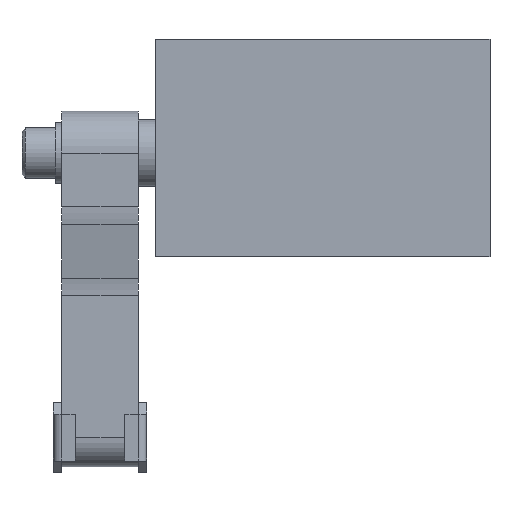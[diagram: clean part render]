
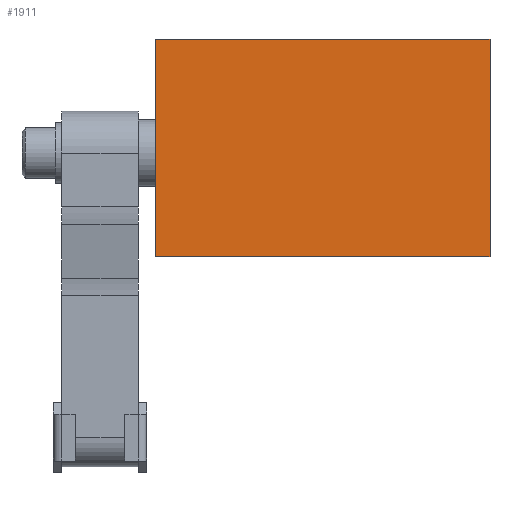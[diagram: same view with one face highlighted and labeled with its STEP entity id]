
A CAD part, left-side view. The second image highlights one B-rep face of the part: STEP entity #1911.
In plain terms, the highlighted planar face has unit normal (-1, 0, 0).
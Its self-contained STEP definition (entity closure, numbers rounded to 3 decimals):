
#67 = CARTESIAN_POINT ( 'NONE',  ( -42.5, 100., 32.5 ) ) ;
#204 = VECTOR ( 'NONE', #2873, 1000. ) ;
#276 = LINE ( 'NONE', #4903, #2636 ) ;
#407 = ORIENTED_EDGE ( 'NONE', *, *, #1941, .F. ) ;
#416 = VERTEX_POINT ( 'NONE', #1173 ) ;
#498 = LINE ( 'NONE', #3025, #3078 ) ;
#514 = ORIENTED_EDGE ( 'NONE', *, *, #929, .T. ) ;
#670 = DIRECTION ( 'NONE',  ( 0., 0., 1. ) ) ;
#829 = FACE_OUTER_BOUND ( 'NONE', #3188, .T. ) ;
#879 = DIRECTION ( 'NONE',  ( 0., 0., -1. ) ) ;
#914 = VERTEX_POINT ( 'NONE', #1917 ) ;
#929 = EDGE_CURVE ( 'NONE', #3277, #416, #3632, .T. ) ;
#1173 = CARTESIAN_POINT ( 'NONE',  ( -42.5, 0., -32.5 ) ) ;
#1668 = PLANE ( 'NONE',  #5159 ) ;
#1911 = ADVANCED_FACE ( 'NONE', ( #829 ), #1668, .F. ) ;
#1917 = CARTESIAN_POINT ( 'NONE',  ( -42.5, 0., 32.5 ) ) ;
#1941 = EDGE_CURVE ( 'NONE', #3277, #4915, #5366, .T. ) ;
#2091 = EDGE_CURVE ( 'NONE', #416, #914, #276, .T. ) ;
#2178 = DIRECTION ( 'NONE',  ( 0., -1., 0. ) ) ;
#2636 = VECTOR ( 'NONE', #670, 1000. ) ;
#2720 = EDGE_CURVE ( 'NONE', #4915, #914, #498, .T. ) ;
#2873 = DIRECTION ( 'NONE',  ( 0., 0., 1. ) ) ;
#3025 = CARTESIAN_POINT ( 'NONE',  ( -42.5, 100., 32.5 ) ) ;
#3078 = VECTOR ( 'NONE', #2178, 1000. ) ;
#3188 = EDGE_LOOP ( 'NONE', ( #4671, #4605, #407, #514 ) ) ;
#3277 = VERTEX_POINT ( 'NONE', #5326 ) ;
#3353 = CARTESIAN_POINT ( 'NONE',  ( -42.5, 100., 32.5 ) ) ;
#3632 = LINE ( 'NONE', #5343, #4818 ) ;
#4538 = DIRECTION ( 'NONE',  ( 1., 0., 0. ) ) ;
#4605 = ORIENTED_EDGE ( 'NONE', *, *, #2720, .F. ) ;
#4671 = ORIENTED_EDGE ( 'NONE', *, *, #2091, .T. ) ;
#4818 = VECTOR ( 'NONE', #5238, 1000. ) ;
#4903 = CARTESIAN_POINT ( 'NONE',  ( -42.5, 0., 32.5 ) ) ;
#4915 = VERTEX_POINT ( 'NONE', #67 ) ;
#5012 = CARTESIAN_POINT ( 'NONE',  ( -42.5, 100., 32.5 ) ) ;
#5159 = AXIS2_PLACEMENT_3D ( 'NONE', #3353, #4538, #879 ) ;
#5238 = DIRECTION ( 'NONE',  ( 0., -1., 0. ) ) ;
#5326 = CARTESIAN_POINT ( 'NONE',  ( -42.5, 100., -32.5 ) ) ;
#5343 = CARTESIAN_POINT ( 'NONE',  ( -42.5, 100., -32.5 ) ) ;
#5366 = LINE ( 'NONE', #5012, #204 ) ;
